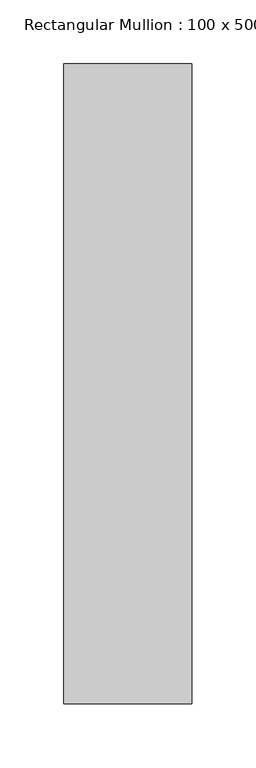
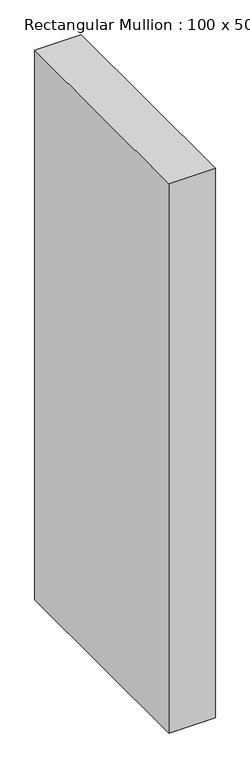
"""IFC4 building model written with IfcOpenShell, lengths in millimetres: member geometry, Rectangular Mullion : 100 x 500mm."""

from ifc_helpers import new_model, si_unit, frame, origin, place, context, project, spatial, polyline, outline, extrude, source, transform, mapped, element, save


def rectangular_mullion_100_x_500mm_ae4d4c62(model_context):
    return source(origin(), model_context, "Body", "SweptSolid", [
        extrude(outline(polyline([(0.0, 125.0), (0.0, -375.0), (-100.0, -375.0), (-100.0, 125.0), (0.0, 125.0)])), frame((0.0, 0.0, -1250.0), z_axis=(0.0, 0.0, 1.0), x_axis=(1.0, 0.0, 0.0)), (0.0, 0.0, 1.0), 1250.0),
    ])


if __name__ == "__main__":
    model = new_model("IFC4")
    model_context = context("Model", 3, world=origin())
    ifc_project = project(units=[si_unit("LENGTHUNIT", "METRE", prefix="MILLI")], contexts=[model_context])
    site = spatial("IfcSite", under=ifc_project)
    building = spatial("IfcBuilding", under=site)
    placement = place(None, origin())
    rectangular_mullion_100_x_500mm_shape = rectangular_mullion_100_x_500mm_ae4d4c62(model_context)
    element("IfcMember", 1, ObjectType="Rectangular Mullion : 100 x 500mm", at=placement, inside=building, context=model_context, shape_type="MappedRepresentation", body=[
        mapped(rectangular_mullion_100_x_500mm_shape, transform((0.0, 0.0, 0.0), x_axis=(1.0, 0.0, 0.0), y_axis=(0.0, 1.0, 0.0), z_axis=(0.0, 0.0, 1.0))),
    ])
    save(model, "model.ifc")
